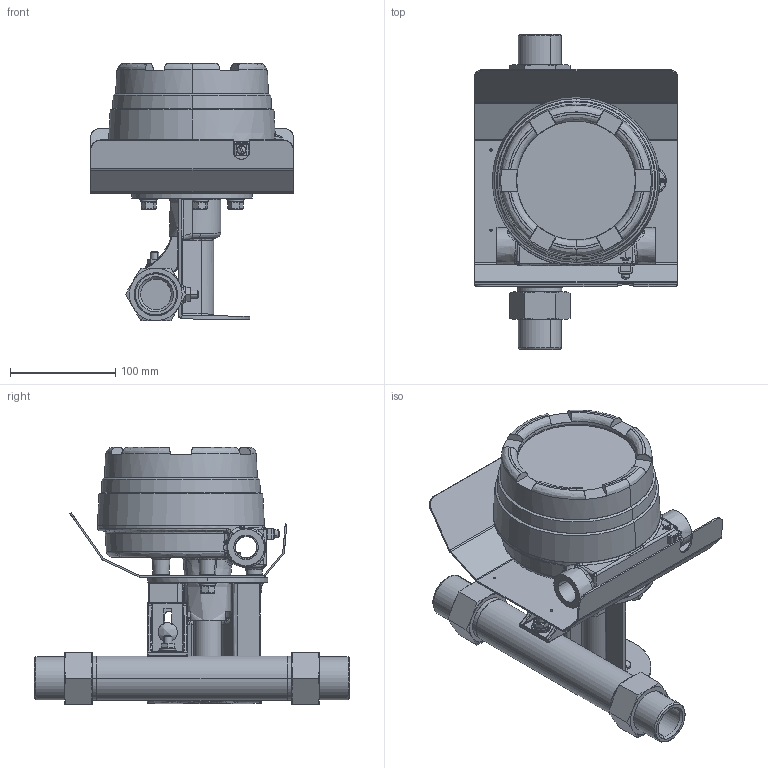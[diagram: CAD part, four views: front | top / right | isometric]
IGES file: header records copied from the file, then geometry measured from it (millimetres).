
Start section: SolidWorks IGES file using analytic representation for surfaces
Global section: file name: G:\Engineering\CAD MODELS FOR SALES\CAD MODEL STORAGE\38XXG\CUSTOMER FILES\Assembly\3809G-F-10-E-5-A-0\3809G-F-10-E-5-A-0.IGS; native system: SolidWorks 2020; preprocessor: SolidWorks 2020; author: CRaksin; date: 220921.150422; units: millimetre
Bounding box: 192.53 x 300 x 244.52 mm (x, y, z)
Surface area: 485302.7 mm2 (no closed solid volume)
Topology: 0 solids, 0 shells, 1308 faces, 21623 edges, 21553 vertices
Faces by surface type: revolution 696, bspline 612
